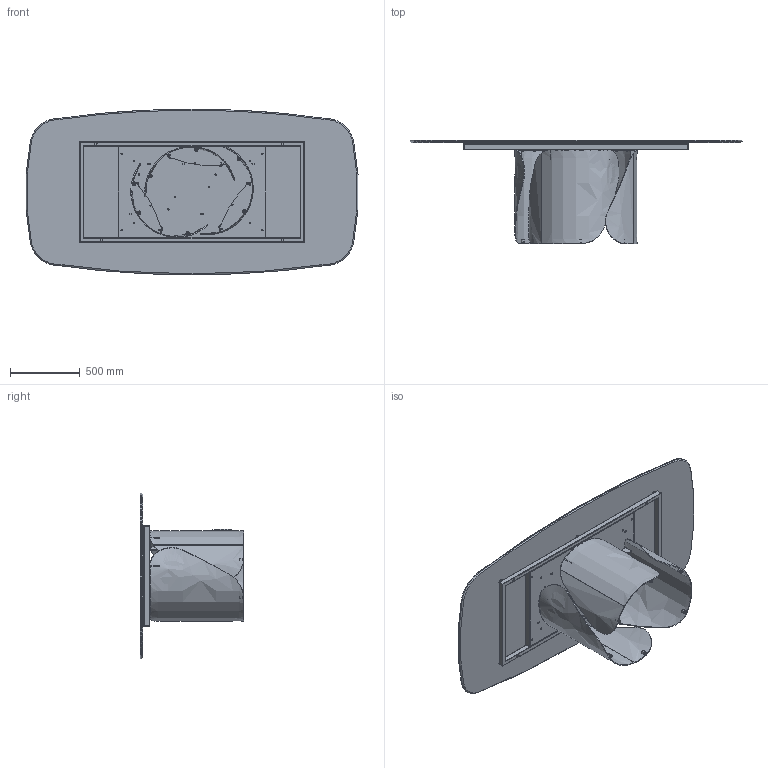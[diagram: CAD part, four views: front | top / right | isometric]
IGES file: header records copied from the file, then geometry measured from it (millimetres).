
Start section: SolidWorks IGES file using analytic representation for surfaces
Global section: file name: Y:\eforma\TECNICO\SOLIDWORKS\E-FORMA\1-TAVOLI\ONDA\02 parts\ON42C.IGS; native system: SolidWorks 2022; preprocessor: SolidWorks 2022; author: eforma.tech; date: 240806.155448; units: millimetre
Bounding box: 2382.15 x 742 x 1190 mm (x, y, z)
Volume: 54668161 mm3; surface area: 16856431.8 mm2
Topology: 64 solids, 64 shells, 1572 faces, 3558 edges, 2144 vertices
Faces by surface type: revolution 932, plane 580, bspline 60
